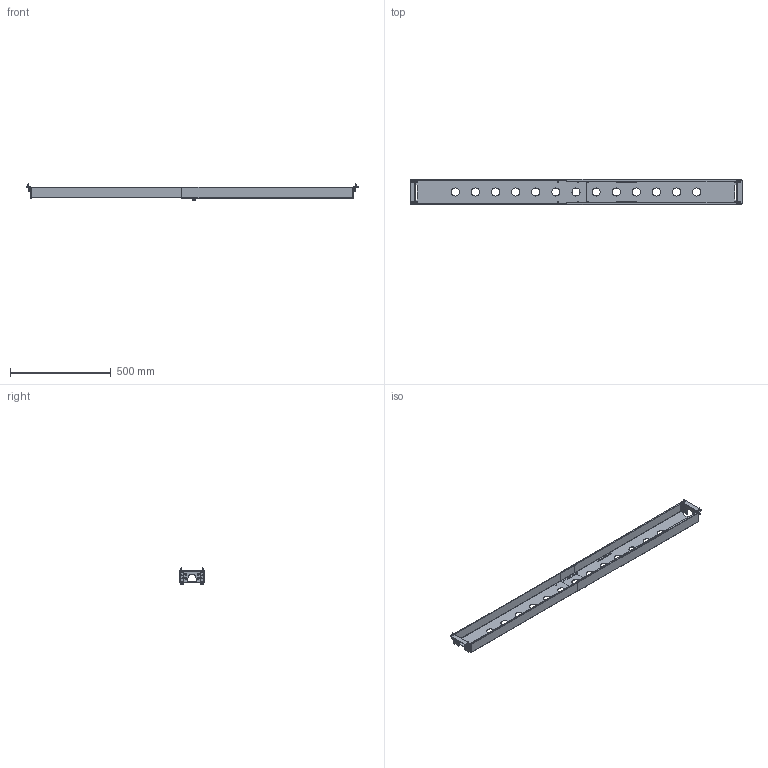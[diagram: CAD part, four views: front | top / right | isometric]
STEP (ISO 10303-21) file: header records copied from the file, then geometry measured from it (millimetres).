
FILE_DESCRIPTION(/* description */ (''),/* implementation_level */ '2;1');
FILE_NAME(/* name */ '',/* time_stamp */ '2026-01-30T08:31:40+08:00',/* author */ (''),/* organization */ (''),/* preprocessor_version */ 'ST-DEVELOPER v15',/* originating_system */ 'SIEMENS PLM Software NX 8.5',/* authorisation */ '');
FILE_SCHEMA (('AUTOMOTIVE_DESIGN { 1 0 10303 214 3 1 1 1 }'));
Products named in the file (1): Leno064C356Cnimd
Bounding box: 1650.7 x 125 x 83.5 mm (x, y, z)
Volume: 356277.8 mm3; surface area: 826254.9 mm2
Topology: 28 solids, 28 shells, 1382 faces, 4022 edges, 2560 vertices
Faces by surface type: plane 712, cylinder 370, sphere 222, bspline 32, torus 28, cone 18
Full cylindrical faces by diameter (mm): 3.3 x4, 4 x2, 6 x4, 6.8 x4, 8.72 x4, 8.75 x4, 9 x2, 10 x4, 11.05 x4, 13 x8, 17 x4, 40 x14
Entity records: 63367 total; most frequent: CARTESIAN_POINT 25178, ORIENTED_EDGE 7408, DIRECTION 6776, EDGE_CURVE 3704, VERTEX_POINT 2522, AXIS2_PLACEMENT_3D 2355, LINE 2066, VECTOR 2066
